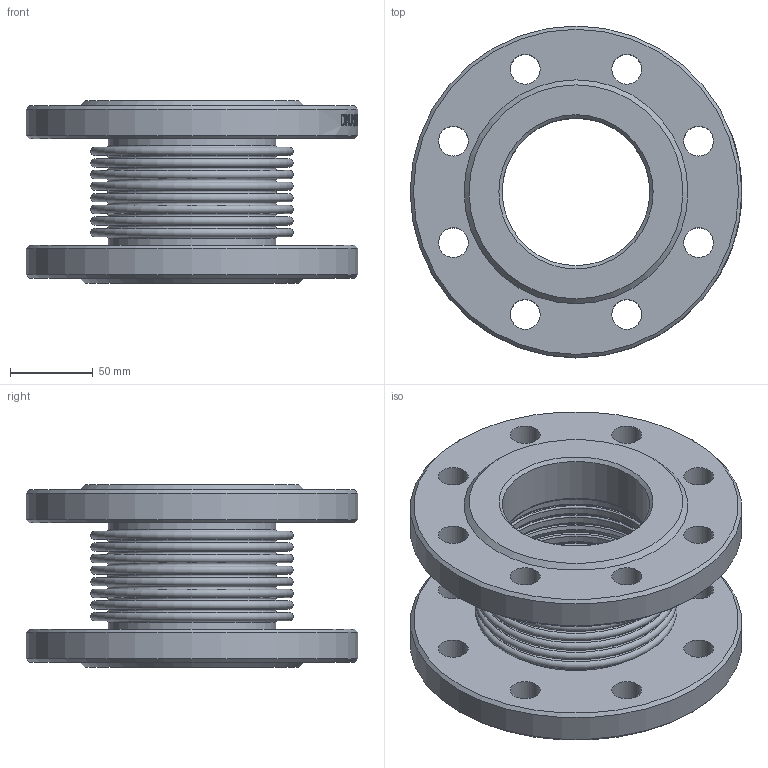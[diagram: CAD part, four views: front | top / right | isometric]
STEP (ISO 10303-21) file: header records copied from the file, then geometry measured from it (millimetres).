
FILE_DESCRIPTION(/* description */ ('D140-02115','CAx-IF Rec.Pracs.---Representation and Presentation of Product Manufacturing Information (PMI)---4.0---2014-10-13'),/* implementation_level */ '2;1');
FILE_NAME(/* name */ '',/* time_stamp */ '2026-04-13T23:35:42+03:00',/* author */ ('DN.RU'),/* organization */ ('DN.RU'),/* preprocessor_version */ 'ST-DEVELOPER v20',/* originating_system */ 'Autodesk Inventor 2025',/* authorisation */ '');
FILE_SCHEMA (('AP242_MANAGED_MODEL_BASED_3D_ENGINEERING_MIM_LF { 1 0 10303 442 1 1 4 }'));
Length unit declared in the file: millimetre
Products named in the file (1): CB-3234-F
Bounding box: 200 x 200 x 110 mm (x, y, z)
Volume: 1111701.6 mm3; surface area: 303737 mm2
Topology: 1 solids, 1 shells, 317 faces, 765 edges, 509 vertices
Faces by surface type: plane 125, bspline 90, cylinder 51, torus 41, cone 10
Full cylindrical faces by diameter (mm): 18 x16, 89 x2, 97 x6, 101 x2, 107 x2, 200 x2
Entity records: 12727 total; most frequent: CARTESIAN_POINT 4793, ORIENTED_EDGE 1530, DIRECTION 1421, EDGE_CURVE 765, AXIS2_PLACEMENT_3D 567, VERTEX_POINT 509, STYLED_ITEM 412, EDGE_LOOP 410
